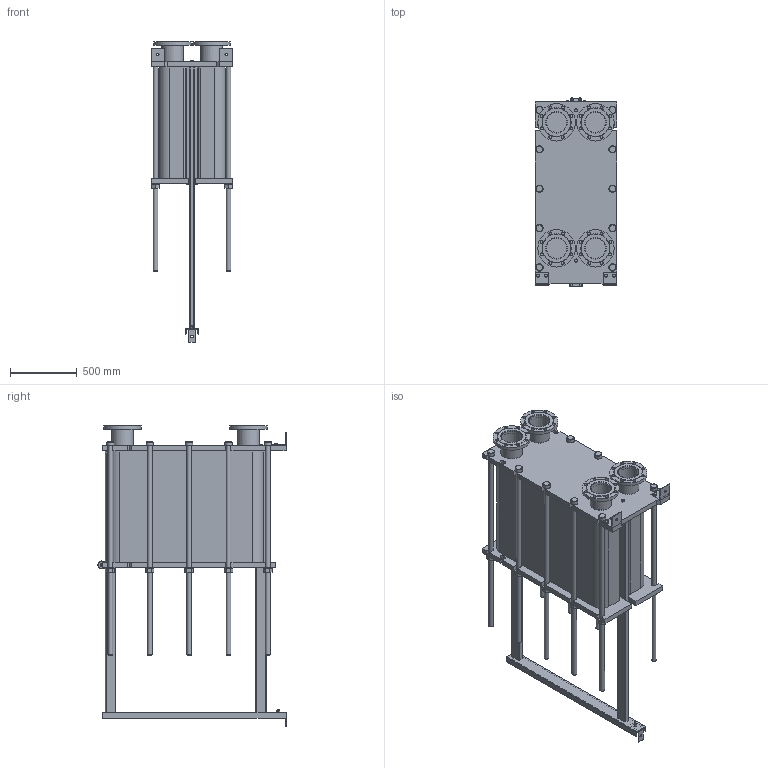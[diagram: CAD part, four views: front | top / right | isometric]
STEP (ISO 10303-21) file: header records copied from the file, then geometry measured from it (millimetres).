
FILE_DESCRIPTION(/* description */ (''),/* implementation_level */ '2;1');
FILE_NAME(/* name */ 'C:\Users\zhuro\Desktop\ENCO\TO\ЭН-041\ЭН-0,5-041-241-1.stp',/* time_stamp */ '2022-06-06T11:09:12+03:00',/* author */ ('zhuro'),/* organization */ (''),/* preprocessor_version */ 'ST-DEVELOPER v18.1',/* originating_system */ 'Autodesk Inventor 2022',/* authorisation */ '');
FILE_SCHEMA (('AUTOMOTIVE_DESIGN { 1 0 10303 214 3 1 1 }'));
Length unit declared in the file: millimetre
Products named in the file (1): ЭН-0,5-041-241-1
Bounding box: 610 x 1406.5 x 2247.5 mm (x, y, z)
Volume: 558020058.1 mm3; surface area: 12133445.5 mm2
Topology: 52 solids, 52 shells, 711 faces, 1696 edges, 1094 vertices
Faces by surface type: plane 487, cylinder 177, cone 41, torus 6
Full cylindrical faces by diameter (mm): 8 x4, 10 x2, 16 x8, 18 x3, 22 x32, 36 x24, 50 x1, 54 x10, 60 x12, 151 x4, 161 x8, 280 x4
Entity records: 22667 total; most frequent: CARTESIAN_POINT 5230, DIRECTION 3644, ORIENTED_EDGE 3392, EDGE_CURVE 1696, AXIS2_PLACEMENT_3D 1272, LINE 1100, VECTOR 1100, VERTEX_POINT 1094
